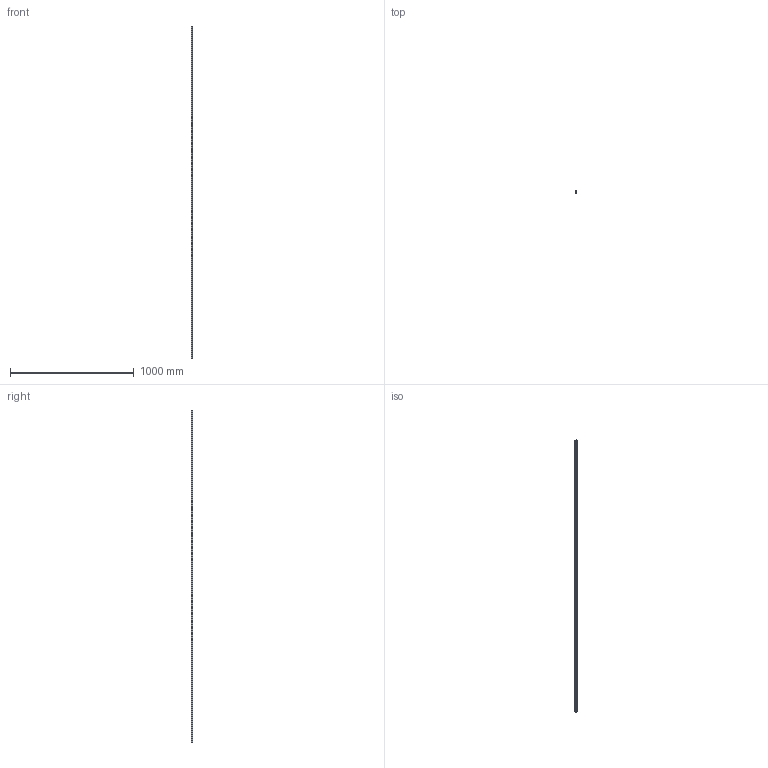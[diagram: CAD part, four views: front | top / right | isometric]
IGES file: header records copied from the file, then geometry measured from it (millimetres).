
Start section: SolidWorks IGES file using analytic representation for surfaces
Global section: file name: C:\Users\IanO\Desktop\L1016_v2\L1016.BL15_v2\L1016.BL15_v2_20190611_IGES\L1016.BL15-2680.igs; native system: SolidWorks 2017; preprocessor: SolidWorks 2017; author: IanO; date: 190612.123316; units: millimetre
Bounding box: 15 x 13 x 2680 mm (x, y, z)
Surface area: 163717.5 mm2 (no closed solid volume)
Topology: 0 solids, 0 shells, 251 faces, 6632 edges, 6632 vertices
Faces by surface type: revolution 184, bspline 67
